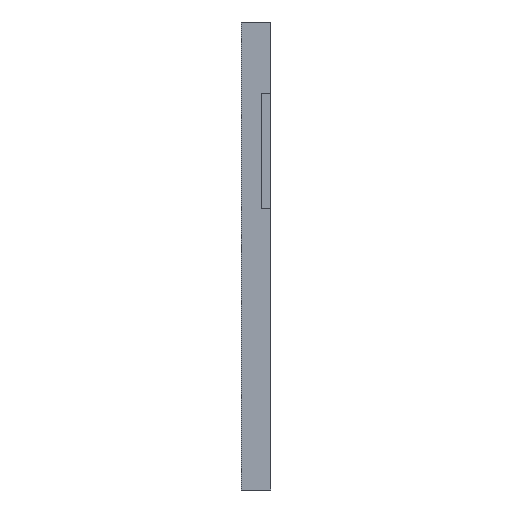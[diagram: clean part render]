
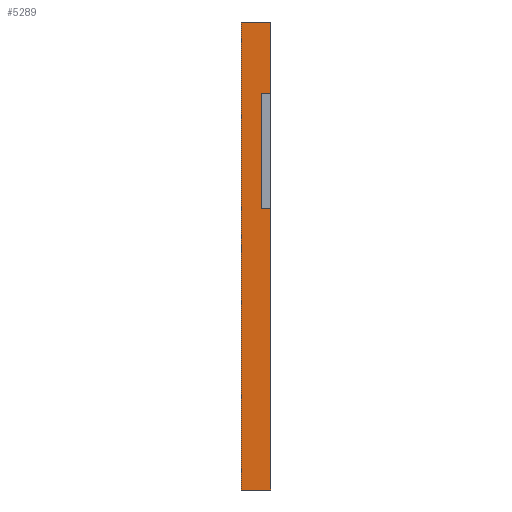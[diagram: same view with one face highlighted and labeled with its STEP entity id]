
A CAD part, left-side view. The second image highlights one B-rep face of the part: STEP entity #5289.
In plain terms, the highlighted planar face has unit normal (-1, 0, 0).
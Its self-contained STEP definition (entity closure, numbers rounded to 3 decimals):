
#77 = VERTEX_POINT ( 'NONE', #6864 ) ;
#716 = PLANE ( 'NONE',  #1469 ) ;
#824 = VECTOR ( 'NONE', #7660, 1000. ) ;
#861 = LINE ( 'NONE', #2892, #8426 ) ;
#865 = CARTESIAN_POINT ( 'NONE',  ( 0., 16., 250. ) ) ;
#1251 = VECTOR ( 'NONE', #2853, 1000. ) ;
#1360 = EDGE_CURVE ( 'NONE', #1739, #8643, #6200, .T. ) ;
#1439 = CARTESIAN_POINT ( 'NONE',  ( 0., 5., 150.567 ) ) ;
#1469 = AXIS2_PLACEMENT_3D ( 'NONE', #9063, #11156, #1638 ) ;
#1500 = LINE ( 'NONE', #5274, #1251 ) ;
#1638 = DIRECTION ( 'NONE',  ( 0., 0., 1. ) ) ;
#1739 = VERTEX_POINT ( 'NONE', #3032 ) ;
#1817 = EDGE_LOOP ( 'NONE', ( #3642, #2937, #10406, #3284, #2027, #4004, #3683, #7224 ) ) ;
#1894 = CARTESIAN_POINT ( 'NONE',  ( 0., 5., 212.033 ) ) ;
#1927 = EDGE_CURVE ( 'NONE', #8643, #77, #2780, .T. ) ;
#2027 = ORIENTED_EDGE ( 'NONE', *, *, #8790, .T. ) ;
#2177 = LINE ( 'NONE', #5028, #6092 ) ;
#2318 = VECTOR ( 'NONE', #9966, 1000. ) ;
#2780 = LINE ( 'NONE', #6431, #9261 ) ;
#2832 = DIRECTION ( 'NONE',  ( 0., -1., 0. ) ) ;
#2853 = DIRECTION ( 'NONE',  ( 0., 0., 1. ) ) ;
#2892 = CARTESIAN_POINT ( 'NONE',  ( 0., 5., 212.033 ) ) ;
#2937 = ORIENTED_EDGE ( 'NONE', *, *, #11797, .T. ) ;
#3032 = CARTESIAN_POINT ( 'NONE',  ( 0., 5., 150.567 ) ) ;
#3222 = CARTESIAN_POINT ( 'NONE',  ( 0., 0., 150.567 ) ) ;
#3284 = ORIENTED_EDGE ( 'NONE', *, *, #11183, .F. ) ;
#3642 = ORIENTED_EDGE ( 'NONE', *, *, #1360, .F. ) ;
#3659 = VERTEX_POINT ( 'NONE', #1894 ) ;
#3683 = ORIENTED_EDGE ( 'NONE', *, *, #9057, .F. ) ;
#4004 = ORIENTED_EDGE ( 'NONE', *, *, #10633, .T. ) ;
#4048 = DIRECTION ( 'NONE',  ( 0., 0., -1. ) ) ;
#4850 = CARTESIAN_POINT ( 'NONE',  ( 0., 16., 0. ) ) ;
#5028 = CARTESIAN_POINT ( 'NONE',  ( 0., 0., 250. ) ) ;
#5274 = CARTESIAN_POINT ( 'NONE',  ( 0., 5., 150.567 ) ) ;
#5289 = ADVANCED_FACE ( 'NONE', ( #7204 ), #716, .T. ) ;
#5814 = CARTESIAN_POINT ( 'NONE',  ( 0., 0., 0. ) ) ;
#6092 = VECTOR ( 'NONE', #9728, 1000. ) ;
#6168 = VECTOR ( 'NONE', #4048, 1000. ) ;
#6200 = LINE ( 'NONE', #1439, #2318 ) ;
#6431 = CARTESIAN_POINT ( 'NONE',  ( 0., 0., 250. ) ) ;
#6451 = EDGE_CURVE ( 'NONE', #3659, #8132, #861, .T. ) ;
#6763 = VERTEX_POINT ( 'NONE', #4850 ) ;
#6864 = CARTESIAN_POINT ( 'NONE',  ( 0., 0., 0. ) ) ;
#7204 = FACE_OUTER_BOUND ( 'NONE', #1817, .T. ) ;
#7224 = ORIENTED_EDGE ( 'NONE', *, *, #1927, .F. ) ;
#7285 = VERTEX_POINT ( 'NONE', #11193 ) ;
#7351 = DIRECTION ( 'NONE',  ( 0., 0., -1. ) ) ;
#7417 = LINE ( 'NONE', #865, #824 ) ;
#7660 = DIRECTION ( 'NONE',  ( 0., 0., -1. ) ) ;
#8132 = VERTEX_POINT ( 'NONE', #11831 ) ;
#8300 = VERTEX_POINT ( 'NONE', #8823 ) ;
#8426 = VECTOR ( 'NONE', #2832, 1000. ) ;
#8643 = VERTEX_POINT ( 'NONE', #3222 ) ;
#8720 = DIRECTION ( 'NONE',  ( 0., 1., 0. ) ) ;
#8754 = LINE ( 'NONE', #11658, #6168 ) ;
#8790 = EDGE_CURVE ( 'NONE', #8300, #7285, #2177, .T. ) ;
#8823 = CARTESIAN_POINT ( 'NONE',  ( 0., 0., 250. ) ) ;
#9057 = EDGE_CURVE ( 'NONE', #77, #6763, #9654, .T. ) ;
#9060 = VECTOR ( 'NONE', #8720, 1000. ) ;
#9063 = CARTESIAN_POINT ( 'NONE',  ( 0., 0., 250. ) ) ;
#9261 = VECTOR ( 'NONE', #7351, 1000. ) ;
#9654 = LINE ( 'NONE', #5814, #9060 ) ;
#9728 = DIRECTION ( 'NONE',  ( 0., 1., 0. ) ) ;
#9966 = DIRECTION ( 'NONE',  ( 0., -1., 0. ) ) ;
#10406 = ORIENTED_EDGE ( 'NONE', *, *, #6451, .T. ) ;
#10633 = EDGE_CURVE ( 'NONE', #7285, #6763, #7417, .T. ) ;
#11156 = DIRECTION ( 'NONE',  ( -1., 0., 0. ) ) ;
#11183 = EDGE_CURVE ( 'NONE', #8300, #8132, #8754, .T. ) ;
#11193 = CARTESIAN_POINT ( 'NONE',  ( 0., 16., 250. ) ) ;
#11658 = CARTESIAN_POINT ( 'NONE',  ( 0., 0., 250. ) ) ;
#11797 = EDGE_CURVE ( 'NONE', #1739, #3659, #1500, .T. ) ;
#11831 = CARTESIAN_POINT ( 'NONE',  ( 0., 0., 212.033 ) ) ;
